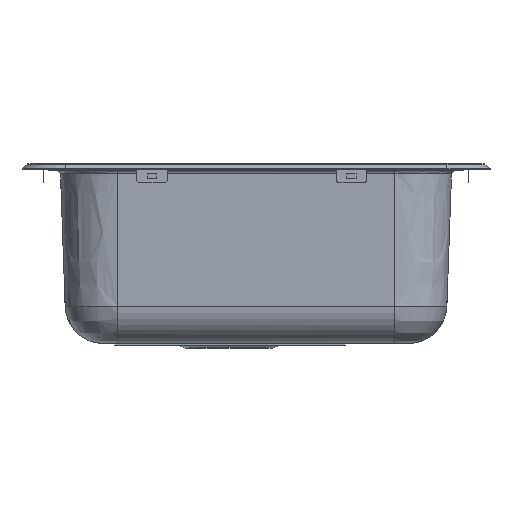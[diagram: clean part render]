
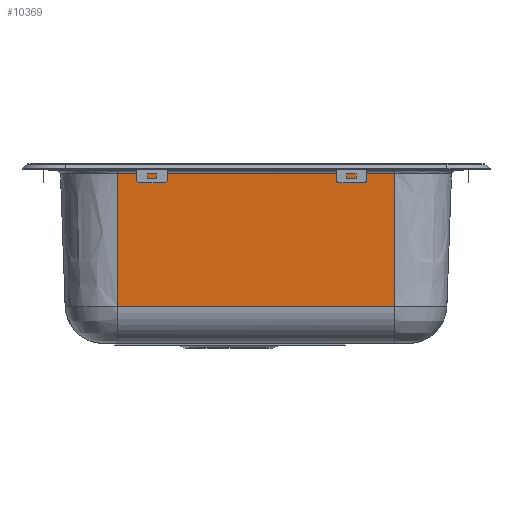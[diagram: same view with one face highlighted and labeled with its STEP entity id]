
A CAD part, left-side view. The second image highlights one B-rep face of the part: STEP entity #10369.
In plain terms, the highlighted planar face has unit normal (-0.999, 0, -0.035).
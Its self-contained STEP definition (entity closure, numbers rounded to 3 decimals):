
#7857=CARTESIAN_POINT('Vertex',(-360.428,147.5,-4.86)) ;
#7892=CARTESIAN_POINT('Line Origine',(-360.428,0.,-4.86)) ;
#7896=CARTESIAN_POINT('Vertex',(-360.428,-147.5,-4.86)) ;
#10332=CARTESIAN_POINT('Vertex',(-355.513,147.5,-145.624)) ;
#10336=CARTESIAN_POINT('Control Point',(-355.513,147.5,-145.624)) ;
#10337=CARTESIAN_POINT('Control Point',(-360.428,147.5,-4.86)) ;
#10346=CARTESIAN_POINT('Axis2P3D Location',(-357.482,0.,-89.228)) ;
#10351=CARTESIAN_POINT('Line Origine',(-355.513,0.,-145.624)) ;
#10355=CARTESIAN_POINT('Vertex',(-355.513,-147.5,-145.624)) ;
#10358=CARTESIAN_POINT('Line Origine',(-357.97,-147.5,-75.242)) ;
#7893=DIRECTION('Vector Direction',(0.,1.,0.)) ;
#10347=DIRECTION('Axis2P3D Direction',(-0.999,-0.,-0.035)) ;
#10348=DIRECTION('Axis2P3D XDirection',(0.,-1.,0.)) ;
#10352=DIRECTION('Vector Direction',(0.,-1.,0.)) ;
#10359=DIRECTION('Vector Direction',(-0.035,0.,0.999)) ;
#10349=AXIS2_PLACEMENT_3D('Plane Axis2P3D',#10346,#10347,#10348) ;
#10364=ORIENTED_EDGE('',*,*,#10357,.T.) ;
#10365=ORIENTED_EDGE('',*,*,#10362,.T.) ;
#10366=ORIENTED_EDGE('',*,*,#7898,.T.) ;
#10367=ORIENTED_EDGE('',*,*,#10338,.F.) ;
#7894=VECTOR('Line Direction',#7893,1.) ;
#10353=VECTOR('Line Direction',#10352,1.) ;
#10360=VECTOR('Line Direction',#10359,1.) ;
#10369=ADVANCED_FACE('PartBody',(#10368),#10350,.T.) ;
#10335=B_SPLINE_CURVE_WITH_KNOTS('',1,(#10336,#10337),.UNSPECIFIED.,.F.,.U.,(2,2),(38.628,179.477),.UNSPECIFIED.) ;
#7898=EDGE_CURVE('',#7897,#7858,#7895,.T.) ;
#10338=EDGE_CURVE('',#10333,#7858,#10335,.T.) ;
#10357=EDGE_CURVE('',#10333,#10356,#10354,.T.) ;
#10362=EDGE_CURVE('',#10356,#7897,#10361,.T.) ;
#10363=EDGE_LOOP('',(#10364,#10365,#10366,#10367)) ;
#10368=FACE_OUTER_BOUND('',#10363,.T.) ;
#7895=LINE('Line',#7892,#7894) ;
#10354=LINE('Line',#10351,#10353) ;
#10361=LINE('Line',#10358,#10360) ;
#10350=PLANE('',#10349) ;
#7858=VERTEX_POINT('',#7857) ;
#7897=VERTEX_POINT('',#7896) ;
#10333=VERTEX_POINT('',#10332) ;
#10356=VERTEX_POINT('',#10355) ;
